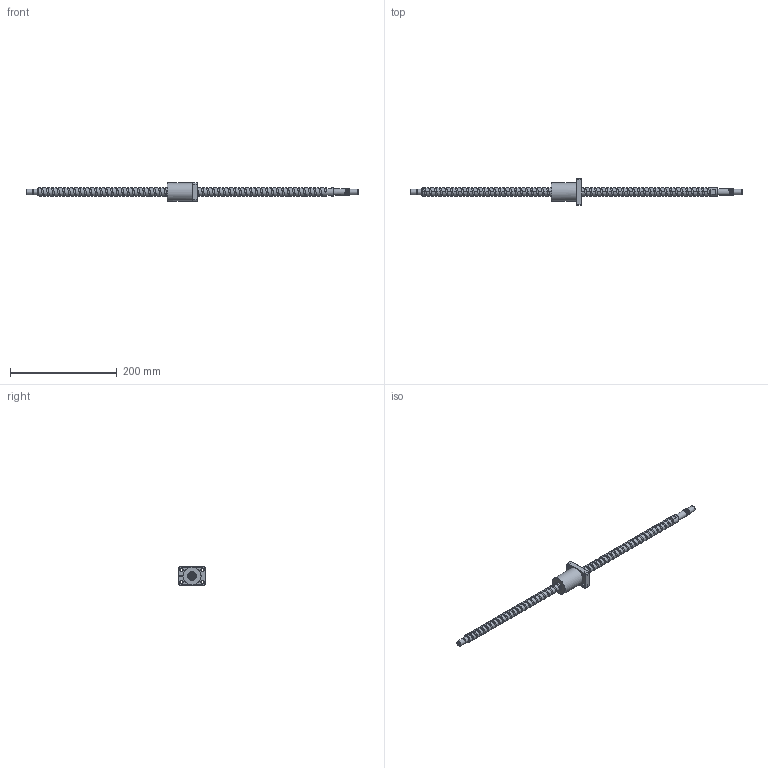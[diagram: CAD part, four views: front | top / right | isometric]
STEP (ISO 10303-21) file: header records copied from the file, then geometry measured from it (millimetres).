
FILE_DESCRIPTION (( 'STEP AP203' ), '1' );
FILE_NAME ('XSVR01510B1DGC5-621-P1.step', '2024-06-03T05:10:38', ( '' ), ( '' ), 'SwSTEP 2.0', 'SolidWorks 2022', '' );
FILE_SCHEMA (( 'CONFIG_CONTROL_DESIGN' ));
Length unit declared in the file: millimetre
Products named in the file (1): XSVR01510B1DGC5-621-P1
Bounding box: 621 x 50 x 34 mm (x, y, z)
Volume: 140862.7 mm3; surface area: 44862.7 mm2
Topology: 2 solids, 2 shells, 184 faces, 500 edges, 326 vertices
Faces by surface type: cylinder 107, plane 43, cone 15, bspline 10, torus 9
Full cylindrical faces by diameter (mm): 4 x1, 4.2 x15, 5 x6, 5.5 x4, 9.5 x4, 9.6 x1, 10 x3, 12 x9, 15 x54, 16.7 x1, 34 x1
Entity records: 18116 total; most frequent: CARTESIAN_POINT 15992, ORIENTED_EDGE 402, DIRECTION 391, EDGE_CURVE 201, AXIS2_PLACEMENT_3D 168, EDGE_LOOP 153, VERTEX_POINT 146, FACE_OUTER_BOUND 120
